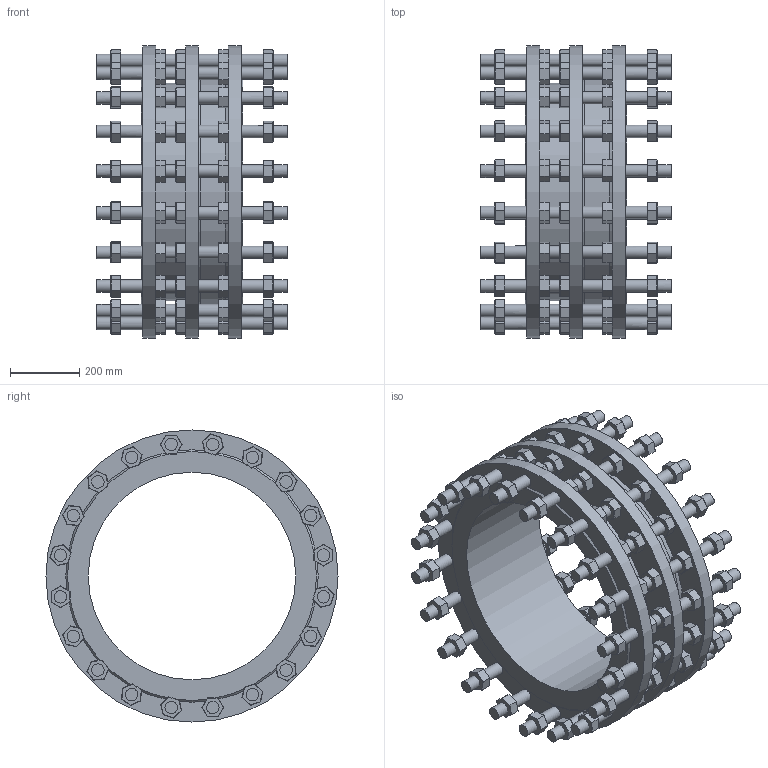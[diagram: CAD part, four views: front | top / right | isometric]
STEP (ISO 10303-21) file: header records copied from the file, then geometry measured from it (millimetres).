
FILE_DESCRIPTION (( 'STEP AP203' ), '1' );
FILE_NAME ('873060000741000.STEP', '2021-11-05T09:57:31', ( '' ), ( '' ), 'SwSTEP 2.0', 'SolidWorks 2020', '' );
FILE_SCHEMA (( 'CONFIG_CONTROL_DESIGN' ));
Length unit declared in the file: millimetre
Products named in the file (1): 873060000741000
Bounding box: 550 x 845 x 845 mm (x, y, z)
Volume: 54156415.7 mm3; surface area: 4794563.1 mm2
Topology: 101 solids, 101 shells, 2239 faces, 4847 edges, 2857 vertices
Faces by surface type: plane 2049, cylinder 187, cone 3
Full cylindrical faces by diameter (mm): 32 x100, 36 x80, 600 x1, 630 x1, 660 x1, 676 x1, 845 x3
Entity records: 57225 total; most frequent: CARTESIAN_POINT 9598, DIRECTION 9438, ORIENTED_EDGE 9158, EDGE_CURVE 4579, LINE 4200, VECTOR 4200, VERTEX_POINT 2779, EDGE_LOOP 2758
